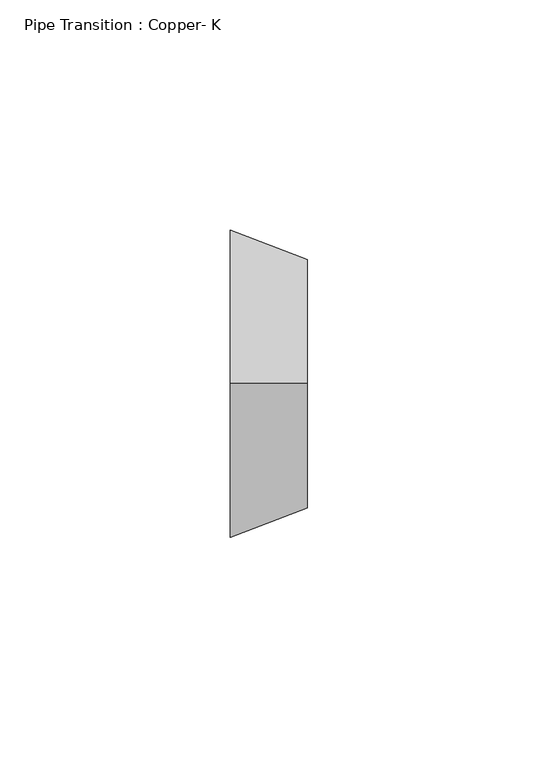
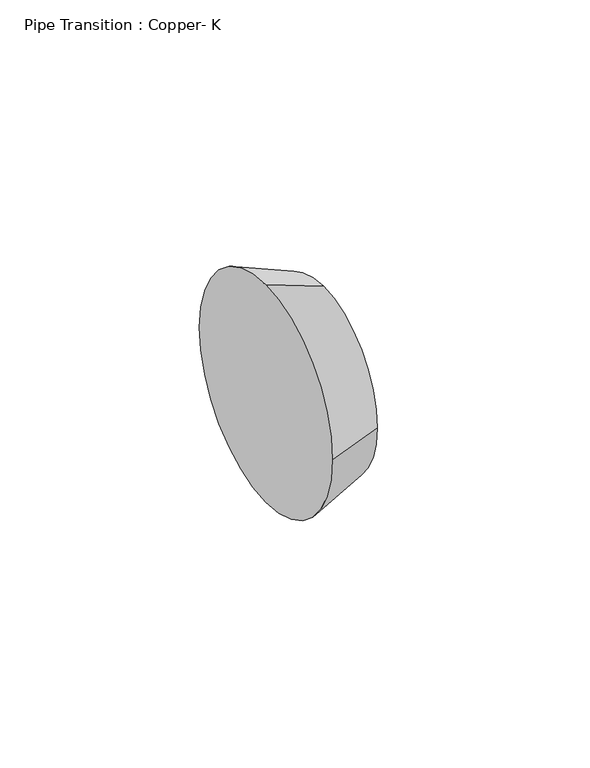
"""IFC4 building model written with IfcOpenShell, lengths in millimetres: pipe fitting geometry, Pipe Transition : Copper- K."""

from ifc_helpers import new_model, si_unit, frame, origin, place, context, project, spatial, polyline, circle_curve, source, transform, mapped, element, save
from ifc_brep_helpers import plane_surface, revolved_surface, advanced_brep


def pipe_transition_copper_k_77c010de(model_context):
    return source(origin(), model_context, "Body", "AdvancedBrep", [
        advanced_brep(
        [(16.66875, 0.0, 26.9875), (16.66875, -26.9875, 0.0), (16.66875, 0.0, -26.9875), (16.66875, 26.9875, 0.0), (0.0, 0.0, 33.3375), (0.0, 33.3375, 0.0), (0.0, 0.0, -33.3375), (0.0, -33.3375, 0.0)],
        [
            (0, 1, circle_curve(frame((16.66875, 0.0, 0.0), z_axis=(1.0, 0.0, 0.0), x_axis=(0.0, 0.0, 1.0)), 26.9875)),
            (1, 2, circle_curve(frame((16.66875, 0.0, 0.0), z_axis=(1.0, 0.0, 0.0), x_axis=(0.0, -1.0, 0.0)), 26.9875)),
            (2, 3, circle_curve(frame((16.66875, 0.0, 0.0), z_axis=(1.0, 0.0, 0.0), x_axis=(0.0, 0.0, -1.0)), 26.9875)),
            (3, 0, circle_curve(frame((16.66875, 0.0, 0.0), z_axis=(1.0, 0.0, 0.0), x_axis=(0.0, 1.0, 0.0)), 26.9875)),
            (4, 5, circle_curve(frame((0.0, 0.0, 0.0), z_axis=(-1.0, 0.0, 0.0), x_axis=(0.0, 1.0, 0.0)), 33.3375)),
            (5, 6, circle_curve(frame((0.0, 0.0, 0.0), z_axis=(-1.0, 0.0, 0.0), x_axis=(0.0, 0.0, -1.0)), 33.3375)),
            (6, 7, circle_curve(frame((0.0, 0.0, 0.0), z_axis=(-1.0, 0.0, 0.0), x_axis=(0.0, -1.0, 0.0)), 33.3375)),
            (7, 4, circle_curve(frame((0.0, 0.0, 0.0), z_axis=(-1.0, 0.0, 0.0), x_axis=(0.0, 0.0, 1.0)), 33.3375)),
            (7, 1),
            (0, 4),
            (6, 2),
            (5, 3),
        ],
        [
            plane_surface(frame((16.66875, 0.0, 0.0), z_axis=(1.0, 0.0, 0.0), x_axis=(0.0, -1.0, 0.0))),
            plane_surface(frame((0.0, 0.0, 0.0), z_axis=(-1.0, 0.0, 0.0), x_axis=(0.0, -1.0, 0.0))),
            revolved_surface(polyline([(16.668750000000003, 0.0, 26.9875), (0.0, 0.0, 33.3375)]), (87.5109375, 0.0, 0.0), (-1.0, 0.0, 0.0)),
            revolved_surface(polyline([(16.668750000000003, -26.9875, 0.0), (0.0, -33.3375, 0.0)]), (87.5109375, 0.0, 0.0), (-1.0, 0.0, 0.0)),
            revolved_surface(polyline([(16.668750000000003, 0.0, -26.9875), (0.0, 0.0, -33.3375)]), (87.5109375, 0.0, 0.0), (-1.0, 0.0, 0.0)),
            revolved_surface(polyline([(16.668750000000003, 26.9875, 0.0), (0.0, 33.3375, 0.0)]), (87.5109375, 0.0, 0.0), (-1.0, 0.0, 0.0)),
        ],
        [
            (0, [[1, 2, 3, 4]]),
            (1, [[5, 6, 7, 8]]),
            (2, [[-8, 9, -1, 10]]),
            (3, [[-7, 11, -2, -9]]),
            (4, [[-6, 12, -3, -11]]),
            (5, [[-5, -10, -4, -12]]),
        ],
    ),
        advanced_brep(
        [(16.66875, 0.0, 26.9875), (16.66875, -26.9875, 0.0), (16.66875, 0.0, -26.9875), (16.66875, 26.9875, 0.0), (0.0, 0.0, 33.3375), (0.0, 33.3375, 0.0), (0.0, 0.0, -33.3375), (0.0, -33.3375, 0.0)],
        [
            (0, 1, circle_curve(frame((16.66875, 0.0, 0.0), z_axis=(1.0, 0.0, 0.0), x_axis=(0.0, 0.0, 1.0)), 26.9875)),
            (1, 2, circle_curve(frame((16.66875, 0.0, 0.0), z_axis=(1.0, 0.0, 0.0), x_axis=(0.0, -1.0, 0.0)), 26.9875)),
            (2, 3, circle_curve(frame((16.66875, 0.0, 0.0), z_axis=(1.0, 0.0, 0.0), x_axis=(0.0, 0.0, -1.0)), 26.9875)),
            (3, 0, circle_curve(frame((16.66875, 0.0, 0.0), z_axis=(1.0, 0.0, 0.0), x_axis=(0.0, 1.0, 0.0)), 26.9875)),
            (4, 5, circle_curve(frame((0.0, 0.0, 0.0), z_axis=(-1.0, 0.0, 0.0), x_axis=(0.0, 1.0, 0.0)), 33.3375)),
            (5, 6, circle_curve(frame((0.0, 0.0, 0.0), z_axis=(-1.0, 0.0, 0.0), x_axis=(0.0, 0.0, -1.0)), 33.3375)),
            (6, 7, circle_curve(frame((0.0, 0.0, 0.0), z_axis=(-1.0, 0.0, 0.0), x_axis=(0.0, -1.0, 0.0)), 33.3375)),
            (7, 4, circle_curve(frame((0.0, 0.0, 0.0), z_axis=(-1.0, 0.0, 0.0), x_axis=(0.0, 0.0, 1.0)), 33.3375)),
            (7, 1),
            (0, 4),
            (6, 2),
            (5, 3),
        ],
        [
            plane_surface(frame((16.66875, 0.0, 0.0), z_axis=(1.0, 0.0, 0.0), x_axis=(0.0, -1.0, 0.0))),
            plane_surface(frame((0.0, 0.0, 0.0), z_axis=(-1.0, 0.0, 0.0), x_axis=(0.0, -1.0, 0.0))),
            revolved_surface(polyline([(16.668750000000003, 0.0, 26.9875), (0.0, 0.0, 33.3375)]), (87.5109375, 0.0, 0.0), (-1.0, 0.0, 0.0)),
            revolved_surface(polyline([(16.668750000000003, -26.9875, 0.0), (0.0, -33.3375, 0.0)]), (87.5109375, 0.0, 0.0), (-1.0, 0.0, 0.0)),
            revolved_surface(polyline([(16.668750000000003, 0.0, -26.9875), (0.0, 0.0, -33.3375)]), (87.5109375, 0.0, 0.0), (-1.0, 0.0, 0.0)),
            revolved_surface(polyline([(16.668750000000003, 26.9875, 0.0), (0.0, 33.3375, 0.0)]), (87.5109375, 0.0, 0.0), (-1.0, 0.0, 0.0)),
        ],
        [
            (0, [[1, 2, 3, 4]]),
            (1, [[5, 6, 7, 8]]),
            (2, [[-8, 9, -1, 10]]),
            (3, [[-7, 11, -2, -9]]),
            (4, [[-6, 12, -3, -11]]),
            (5, [[-5, -10, -4, -12]]),
        ],
    ),
    ])


if __name__ == "__main__":
    model = new_model("IFC4")
    model_context = context("Model", 3, world=origin())
    ifc_project = project(units=[si_unit("LENGTHUNIT", "METRE", prefix="MILLI")], contexts=[model_context])
    site = spatial("IfcSite", under=ifc_project)
    building = spatial("IfcBuilding", under=site)
    placement = place(None, origin())
    pipe_transition_copper_k_shape = pipe_transition_copper_k_77c010de(model_context)
    element("IfcPipeFitting", 1, ObjectType="Pipe Transition : Copper- K", at=placement, inside=building, context=model_context, shape_type="MappedRepresentation", body=[
        mapped(pipe_transition_copper_k_shape, transform((0.0, 0.0, 0.0), x_axis=(1.0, 0.0, 0.0), y_axis=(0.0, 1.0, 0.0), z_axis=(0.0, 0.0, 1.0))),
    ])
    save(model, "model.ifc")
